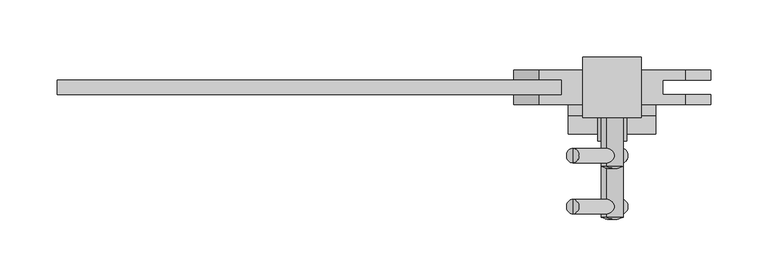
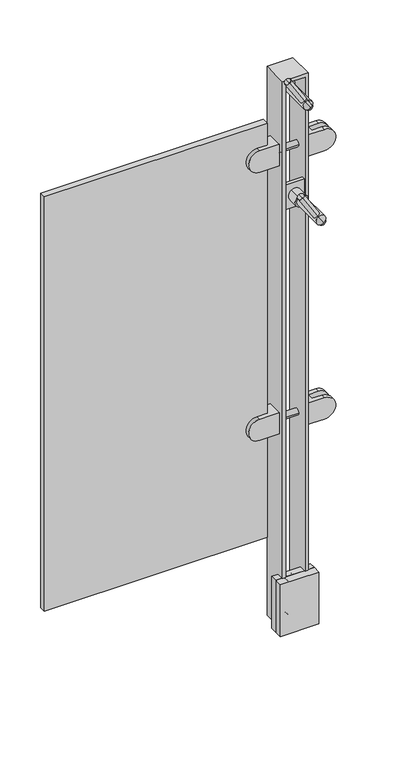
"""IFC4 building model written with IfcOpenShell, lengths in millimetres: proxy geometry, LIVERS_ICN - Glass Panel : LIVERS_ICN - Glass Panel."""

from ifc_helpers import new_model, si_unit, point, frame, origin, place, context, project, spatial, polyline, circle_curve, ellipse_curve, trimmed, outline, extrude, faceted_brep, source, transform, mapped, element, save
from ifc_brep_helpers import plane_surface, cylinder_surface, revolved_surface, advanced_brep


def building_element_proxy_5a8c780e(model_context):
    return source(origin(), model_context, "Body", "SolidModel", [
        advanced_brep(
        [(820.2987789, 60.3249609, 1048.8179387), (827.0287535, 60.3249609, 1038.0477279), (833.7587282, 60.3249609, 1027.277517), (820.2987789, 38.0999609, 1048.8179387), (833.7587282, 38.0999609, 1027.277517), (827.0287535, 38.0999609, 1038.0477279)],
        [
            (0, 1),
            (1, 2),
            (2, 0, circle_curve(frame((827.0287535, 60.3249609, 1038.0477279), z_axis=(0.0, 1.0, 0.0), x_axis=(0.5299192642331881, 0.0, -0.8480480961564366)), 12.7)),
            (0, 2, circle_curve(frame((827.0287535, 60.3249609, 1038.0477279), z_axis=(0.0, 1.0, 0.0), x_axis=(0.5299192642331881, 0.0, -0.8480480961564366)), 12.7)),
            (3, 0),
            (2, 4),
            (4, 3, circle_curve(frame((827.0287535, 38.0999609, 1038.0477279), z_axis=(0.0, 1.0, 0.0), x_axis=(0.5299192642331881, 0.0, -0.8480480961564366)), 12.7)),
            (3, 4, circle_curve(frame((827.0287535, 38.0999609, 1038.0477279), z_axis=(0.0, 1.0, 0.0), x_axis=(0.5299192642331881, 0.0, -0.8480480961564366)), 12.7)),
            (5, 3),
            (4, 5),
        ],
        [
            plane_surface(frame((827.0287535, 60.3249609, 1038.0477279), z_axis=(0.0, 1.0000000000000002, 0.0), x_axis=(0.5299192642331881, 0.0, -0.8480480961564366))),
            cylinder_surface(frame((827.0287535, 69.3828283, 1038.0477279), z_axis=(0.0, -1.0, 0.0), x_axis=(0.5299192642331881, 0.0, -0.8480480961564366)), 12.7),
            plane_surface(frame((827.0287535, 38.0999609, 1038.0477279), z_axis=(0.0, -1.0000000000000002, 0.0), x_axis=(0.5299192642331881, 0.0, -0.8480480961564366))),
        ],
        [
            (0, [[1, 2, 3]]),
            (0, [[-2, -1, 4]]),
            (1, [[5, -3, 6, 7]]),
            (1, [[-6, -4, -5, 8]]),
            (2, [[9, -7, 10]]),
            (2, [[-10, -8, -9]]),
        ],
    ),
        advanced_brep(
        [(792.7610833, -25.4004131, 1092.8874638), (792.7610833, -19.0504161, 1092.8874638), (792.7610833, -12.7004191, 1092.8874638), (835.3645086, -25.4004131, 1024.7077313), (835.3645086, -12.7004191, 1024.7077313), (835.3645086, -19.0504161, 1024.7077313)],
        [
            (0, 1),
            (1, 2),
            (2, 0, circle_curve(frame((792.7610833, -19.0504161, 1092.8874638), z_axis=(-0.5299192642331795, 0.0, 0.848048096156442), x_axis=(0.0, 1.0, 0.0)), 6.349997)),
            (0, 2, circle_curve(frame((792.7610833, -19.0504161, 1092.8874638), z_axis=(-0.5299192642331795, 0.0, 0.848048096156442), x_axis=(0.0, 1.0, 0.0)), 6.349997)),
            (3, 0),
            (2, 4),
            (4, 3, circle_curve(frame((835.3645086, -19.0504161, 1024.7077313), z_axis=(-0.5299192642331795, 0.0, 0.848048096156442), x_axis=(0.0, 1.0, 0.0)), 6.349997)),
            (3, 4, circle_curve(frame((835.3645086, -19.0504161, 1024.7077313), z_axis=(-0.5299192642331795, 0.0, 0.848048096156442), x_axis=(0.0, 1.0, 0.0)), 6.349997)),
            (5, 3),
            (4, 5),
        ],
        [
            plane_surface(frame((792.7610833, -19.0504161, 1092.8874638), z_axis=(-0.5299192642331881, 0.0, 0.8480480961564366), x_axis=(0.0, 1.0, 0.0))),
            cylinder_surface(frame((785.4211679, -19.0504161, 1104.6337839), z_axis=(0.5299192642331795, 0.0, -0.848048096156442), x_axis=(0.0, 1.0, 0.0)), 6.349997),
            plane_surface(frame((835.3645086, -19.0504161, 1024.7077313), z_axis=(0.5299192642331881, 0.0, -0.8480480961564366), x_axis=(0.0, 1.0, 0.0))),
        ],
        [
            (0, [[1, 2, 3]]),
            (0, [[-2, -1, 4]]),
            (1, [[5, -3, 6, 7]]),
            (1, [[-6, -4, -5, 8]]),
            (2, [[9, -7, 10]]),
            (2, [[-10, -8, -9]]),
        ],
    ),
        advanced_brep(
        [(827.0287535, -30.1375464, 1038.0477279), (821.9812725, -28.5500464, 1046.125386), (832.0762345, -28.5500464, 1029.9700697), (821.9812725, 38.0999609, 1046.125386), (827.0287535, 38.0999609, 1038.0477279), (832.0762345, 38.0999609, 1029.9700697)],
        [
            (0, 1, circle_curve(frame((827.0287535, -0.7687964, 1038.0477279), z_axis=(-0.848048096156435, 0.0, -0.5299192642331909), x_axis=(0.0, 1.0, 0.0)), 29.36875)),
            (1, 2, circle_curve(frame((827.0287535, -28.5500464, 1038.0477279), z_axis=(0.0, -1.0, 0.0), x_axis=(0.5299192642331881, 0.0, -0.8480480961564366)), 9.525)),
            (2, 0, circle_curve(frame((827.0287535, -0.7687964, 1038.0477279), z_axis=(-0.8480480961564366, 0.0, -0.5299192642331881), x_axis=(0.0, 1.0, 0.0)), 29.36875)),
            (2, 1, circle_curve(frame((827.0287535, -28.5500464, 1038.0477279), z_axis=(0.0, -1.0, 0.0), x_axis=(0.5299192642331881, 0.0, -0.8480480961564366)), 9.525)),
            (3, 4),
            (4, 5),
            (5, 3, circle_curve(frame((827.0287535, 38.0999609, 1038.0477279), z_axis=(0.0, 1.0, 0.0), x_axis=(0.5299192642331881, 0.0, -0.8480480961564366)), 9.525)),
            (3, 5, circle_curve(frame((827.0287535, 38.0999609, 1038.0477279), z_axis=(0.0, 1.0, 0.0), x_axis=(0.5299192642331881, 0.0, -0.8480480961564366)), 9.525)),
            (1, 3),
            (5, 2),
        ],
        [
            revolved_surface(trimmed(ellipse_curve(frame((827.0287535, -0.7687964, 1038.0477279), z_axis=(-0.8480480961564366, 0.0, -0.5299192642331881), x_axis=(0.0, 1.0, 0.0)), 29.36875, 29.36875), [point((832.0762345, -28.5500464, 1029.9700697))], [point((827.0287535, -30.1375464, 1038.0477279))], True, "CARTESIAN"), (827.0287535, 30.3031204, 1038.0477279), (0.0, -1.0, 0.0)),
            plane_surface(frame((827.0287535, 38.0999609, 1038.0477279), z_axis=(0.0, 1.0000000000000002, 0.0), x_axis=(0.5299192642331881, 0.0, -0.8480480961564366))),
            cylinder_surface(frame((827.0287535, 30.3031204, 1038.0477279), z_axis=(0.0, -1.0, 0.0), x_axis=(0.5299192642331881, 0.0, -0.8480480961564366)), 9.525),
        ],
        [
            (0, [[1, 2, 3]]),
            (0, [[-3, 4, -1]]),
            (1, [[5, 6, 7]]),
            (1, [[-6, -5, 8]]),
            (2, [[9, -7, 10, -2]]),
            (2, [[-10, -8, -9, -4]]),
        ],
    ),
        extrude(outline(polyline([(846.0787535, 66.6749609), (846.0787535, 60.3249609), (807.9787535, 60.3249609), (807.9787535, 66.6749609), (846.0787535, 66.6749609)])), frame((0.0, 0.0, 1012.6477279), z_axis=(0.0, 0.0, 1.0), x_axis=(1.0, 0.0, 0.0)), (0.0, 0.0, 1.0), 50.8),
        advanced_brep(
        [(820.2987789, 15.875, 836.1008405), (827.0287535, 15.875, 825.3306297), (833.7587282, 15.875, 814.5604189), (820.2987789, -6.35, 836.1008405), (833.7587282, -6.35, 814.5604189), (827.0287535, -6.35, 825.3306297)],
        [
            (0, 1),
            (1, 2),
            (2, 0, circle_curve(frame((827.0287535, 15.875, 825.3306297), z_axis=(0.0, 1.0, 0.0), x_axis=(0.5299192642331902, 0.0, -0.8480480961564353)), 12.7)),
            (0, 2, circle_curve(frame((827.0287535, 15.875, 825.3306297), z_axis=(0.0, 1.0, 0.0), x_axis=(0.5299192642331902, 0.0, -0.8480480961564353)), 12.7)),
            (3, 0),
            (2, 4),
            (4, 3, circle_curve(frame((827.0287535, -6.35, 825.3306297), z_axis=(0.0, 1.0, 0.0), x_axis=(0.5299192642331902, 0.0, -0.8480480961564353)), 12.7)),
            (3, 4, circle_curve(frame((827.0287535, -6.35, 825.3306297), z_axis=(0.0, 1.0, 0.0), x_axis=(0.5299192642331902, 0.0, -0.8480480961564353)), 12.7)),
            (5, 3),
            (4, 5),
        ],
        [
            plane_surface(frame((827.0287535, 15.875, 825.3306297), z_axis=(0.0, 1.0000000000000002, 0.0), x_axis=(0.5299192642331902, 0.0, -0.8480480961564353))),
            cylinder_surface(frame((827.0287535, 24.9328674, 825.3306297), z_axis=(0.0, -1.0, 0.0), x_axis=(0.5299192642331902, 0.0, -0.8480480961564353)), 12.7),
            plane_surface(frame((827.0287535, -6.35, 825.3306297), z_axis=(0.0, -1.0000000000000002, 0.0), x_axis=(0.5299192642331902, 0.0, -0.8480480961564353))),
        ],
        [
            (0, [[1, 2, 3]]),
            (0, [[-2, -1, 4]]),
            (1, [[5, -3, 6, 7]]),
            (1, [[-6, -4, -5, 8]]),
            (2, [[9, -7, 10]]),
            (2, [[-10, -8, -9]]),
        ],
    ),
        advanced_brep(
        [(792.7610833, -69.850374, 880.1703657), (792.7610833, -63.500377, 880.1703657), (792.7610833, -57.15038, 880.1703657), (835.3645086, -69.850374, 811.9906331), (835.3645086, -57.15038, 811.9906331), (835.3645086, -63.500377, 811.9906331)],
        [
            (0, 1),
            (1, 2),
            (2, 0, circle_curve(frame((792.7610833, -63.500377, 880.1703657), z_axis=(-0.5299192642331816, 0.0, 0.8480480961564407), x_axis=(0.0, 1.0, 0.0)), 6.349997)),
            (0, 2, circle_curve(frame((792.7610833, -63.500377, 880.1703657), z_axis=(-0.5299192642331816, 0.0, 0.8480480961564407), x_axis=(0.0, 1.0, 0.0)), 6.349997)),
            (3, 0),
            (2, 4),
            (4, 3, circle_curve(frame((835.3645086, -63.500377, 811.9906331), z_axis=(-0.5299192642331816, 0.0, 0.8480480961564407), x_axis=(0.0, 1.0, 0.0)), 6.349997)),
            (3, 4, circle_curve(frame((835.3645086, -63.500377, 811.9906331), z_axis=(-0.5299192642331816, 0.0, 0.8480480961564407), x_axis=(0.0, 1.0, 0.0)), 6.349997)),
            (5, 3),
            (4, 5),
        ],
        [
            plane_surface(frame((792.7610833, -63.500377, 880.1703657), z_axis=(-0.5299192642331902, 0.0, 0.8480480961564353), x_axis=(0.0, 1.0, 0.0))),
            cylinder_surface(frame((785.4211679, -63.500377, 891.9166857), z_axis=(0.5299192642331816, 0.0, -0.8480480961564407), x_axis=(0.0, 1.0, 0.0)), 6.349997),
            plane_surface(frame((835.3645086, -63.500377, 811.9906331), z_axis=(0.5299192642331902, 0.0, -0.8480480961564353), x_axis=(0.0, 1.0, 0.0))),
        ],
        [
            (0, [[1, 2, 3]]),
            (0, [[-2, -1, 4]]),
            (1, [[5, -3, 6, 7]]),
            (1, [[-6, -4, -5, 8]]),
            (2, [[9, -7, 10]]),
            (2, [[-10, -8, -9]]),
        ],
    ),
        advanced_brep(
        [(827.0287535, -74.5875073, 825.3306297), (821.9812725, -73.0000073, 833.4082878), (832.0762345, -73.0000073, 817.2529716), (821.9812725, -6.35, 833.4082878), (827.0287535, -6.35, 825.3306297), (832.0762345, -6.35, 817.2529716)],
        [
            (0, 1, circle_curve(frame((827.0287535, -45.2187573, 825.3306297), z_axis=(-0.8480480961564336, 0.0, -0.529919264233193), x_axis=(0.0, 1.0, 0.0)), 29.36875)),
            (1, 2, circle_curve(frame((827.0287535, -73.0000073, 825.3306297), z_axis=(0.0, -1.0, 0.0), x_axis=(0.5299192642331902, 0.0, -0.8480480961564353)), 9.525)),
            (2, 0, circle_curve(frame((827.0287535, -45.2187573, 825.3306297), z_axis=(-0.8480480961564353, 0.0, -0.5299192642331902), x_axis=(0.0, 1.0, 0.0)), 29.36875)),
            (2, 1, circle_curve(frame((827.0287535, -73.0000073, 825.3306297), z_axis=(0.0, -1.0, 0.0), x_axis=(0.5299192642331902, 0.0, -0.8480480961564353)), 9.525)),
            (3, 4),
            (4, 5),
            (5, 3, circle_curve(frame((827.0287535, -6.35, 825.3306297), z_axis=(0.0, 1.0, 0.0), x_axis=(0.5299192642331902, 0.0, -0.8480480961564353)), 9.525)),
            (3, 5, circle_curve(frame((827.0287535, -6.35, 825.3306297), z_axis=(0.0, 1.0, 0.0), x_axis=(0.5299192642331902, 0.0, -0.8480480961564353)), 9.525)),
            (1, 3),
            (5, 2),
        ],
        [
            revolved_surface(trimmed(ellipse_curve(frame((827.0287535, -45.2187573, 825.3306297), z_axis=(-0.8480480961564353, 0.0, -0.5299192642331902), x_axis=(0.0, 1.0, 0.0)), 29.36875, 29.36875), [point((832.0762345, -73.0000073, 817.2529716))], [point((827.0287535, -74.5875073, 825.3306297))], True, "CARTESIAN"), (827.0287535, -14.1468405, 825.3306297), (0.0, -1.0, 0.0)),
            plane_surface(frame((827.0287535, -6.35, 825.3306297), z_axis=(0.0, 1.0000000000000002, 0.0), x_axis=(0.5299192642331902, 0.0, -0.8480480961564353))),
            cylinder_surface(frame((827.0287535, -14.1468405, 825.3306297), z_axis=(0.0, -1.0, 0.0), x_axis=(0.5299192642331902, 0.0, -0.8480480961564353)), 9.525),
        ],
        [
            (0, [[1, 2, 3]]),
            (0, [[-3, 4, -1]]),
            (1, [[5, 6, 7]]),
            (1, [[-6, -5, 8]]),
            (2, [[9, -7, 10, -2]]),
            (2, [[-10, -8, -9, -4]]),
        ],
    ),
        extrude(outline(polyline([(846.0787535, 22.225), (846.0787535, 15.875), (807.9787535, 15.875), (807.9787535, 22.225), (846.0787535, 22.225)])), frame((0.0, 0.0, 799.9306297), z_axis=(0.0, 0.0, 1.0), x_axis=(1.0, 0.0, 0.0)), (0.0, 0.0, 1.0), 50.8),
        advanced_brep(
        [(801.6287535, 55.5624457, 373.0665925), (801.6287535, 25.3999457, 373.0665925), (801.6287535, 25.3999457, 328.6165925), (801.6287535, 55.5624457, 328.6165925), (763.4276595, 55.5624457, 328.6165925), (763.4276595, 55.5624457, 373.0665925), (763.4276595, 25.3999457, 328.6165925), (763.4276595, 34.1311957, 328.6165925), (782.7568343, 34.1311957, 328.6165925), (782.7568343, 46.8311957, 328.6165925), (763.4276595, 46.8311957, 328.6165925), (763.4276595, 25.3999457, 373.0665925), (763.4276595, 46.8311957, 373.0665925), (782.7568343, 46.8311957, 373.0665925), (782.7568343, 34.1311957, 373.0665925), (763.4276595, 34.1311957, 373.0665925)],
        [
            (0, 1),
            (1, 2),
            (2, 3),
            (3, 0),
            (3, 4),
            (4, 5, circle_curve(frame((763.4276595, 55.5624457, 350.8415925), z_axis=(0.0, 1.0, 0.0), x_axis=(0.0, 0.0, -1.0)), 22.225)),
            (5, 0),
            (2, 6),
            (6, 7),
            (7, 8),
            (8, 9),
            (9, 10),
            (10, 4),
            (1, 11),
            (11, 6, circle_curve(frame((763.4276595, 25.3999457, 350.8415925), z_axis=(0.0, -1.0, 0.0), x_axis=(0.0, 0.0, -1.0)), 22.225)),
            (5, 12),
            (12, 13),
            (13, 14),
            (14, 15),
            (15, 11),
            (13, 9),
            (8, 14),
            (12, 10, circle_curve(frame((763.4276595, 46.8311957, 350.8415925), z_axis=(0.0, -1.0, 0.0), x_axis=(0.0, 0.0, -1.0)), 22.225)),
            (7, 15, circle_curve(frame((763.4276595, 34.1311957, 350.8415925), z_axis=(0.0, 1.0, 0.0), x_axis=(0.0, 0.0, -1.0)), 22.225)),
        ],
        [
            plane_surface(frame((801.6287535, 55.5624457, 328.6165925), z_axis=(1.0, 0.0, 0.0), x_axis=(0.0, 0.0, 1.0))),
            plane_surface(frame((741.1256728, 55.5624457, 373.0665925), z_axis=(0.0, 1.0, 0.0), x_axis=(1.0, 0.0, 0.0))),
            plane_surface(frame((741.1256728, 55.5624457, 328.6165925), z_axis=(0.0, 0.0, -1.0), x_axis=(1.0, 0.0, 0.0))),
            plane_surface(frame((741.1256728, 25.3999457, 328.6165925), z_axis=(0.0, -1.0, 0.0), x_axis=(1.0, 0.0, 0.0))),
            plane_surface(frame((741.1256728, 25.3999457, 373.0665925), z_axis=(0.0, 0.0, 1.0), x_axis=(1.0, 0.0, 0.0))),
            plane_surface(frame((782.7568343, 46.8311957, 328.6165925), z_axis=(-1.0, 0.0, 0.0), x_axis=(0.0, 0.0, 1.0))),
            plane_surface(frame((741.1256728, 46.8311957, 373.0665925), z_axis=(0.0, -1.0, 0.0), x_axis=(1.0, 0.0, 0.0))),
            plane_surface(frame((741.1256728, 34.1311957, 328.6165925), z_axis=(0.0, 1.0, 0.0), x_axis=(1.0, 0.0, 0.0))),
            cylinder_surface(frame((763.4276595, 55.5624457, 350.8415925), z_axis=(0.0, 1.0, 0.0), x_axis=(0.0, 0.0, -1.0)), 22.225),
        ],
        [
            (0, [[1, 2, 3, 4]]),
            (1, [[-4, 5, 6, 7]]),
            (2, [[-3, 8, 9, 10, 11, 12, 13, -5]]),
            (3, [[-2, 14, 15, -8]]),
            (4, [[-1, -7, 16, 17, 18, 19, 20, -14]]),
            (5, [[21, -11, 22, -18]]),
            (6, [[-21, -17, 23, -12]]),
            (7, [[-22, -10, 24, -19]]),
            (8, [[-6, -13, -23, -16]]),
            (8, [[-9, -15, -20, -24]]),
        ],
    ),
        advanced_brep(
        [(852.4287535, 55.5624457, 373.0665925), (852.4287535, 55.5624457, 328.6165925), (852.4287535, 25.3999457, 328.6165925), (852.4287535, 25.3999457, 373.0665925), (890.6298475, 55.5624457, 373.0665925), (890.6298475, 55.5624457, 328.6165925), (890.6298475, 46.8311957, 328.6165925), (871.3006728, 46.8311957, 328.6165925), (871.3006728, 34.1311957, 328.6165925), (890.6298475, 34.1311957, 328.6165925), (890.6298475, 25.3999457, 328.6165925), (890.6298475, 25.3999457, 373.0665925), (890.6298475, 34.1311957, 373.0665925), (871.3006728, 34.1311957, 373.0665925), (871.3006728, 46.8311957, 373.0665925), (890.6298475, 46.8311957, 373.0665925)],
        [
            (0, 1),
            (1, 2),
            (2, 3),
            (3, 0),
            (0, 4),
            (4, 5, circle_curve(frame((890.6298475, 55.5624457, 350.8415925), z_axis=(0.0, 1.0, 0.0), x_axis=(0.0, 0.0, -1.0)), 22.225)),
            (5, 1),
            (5, 6),
            (6, 7),
            (7, 8),
            (8, 9),
            (9, 10),
            (10, 2),
            (10, 11, circle_curve(frame((890.6298475, 25.3999457, 350.8415925), z_axis=(0.0, -1.0, 0.0), x_axis=(0.0, 0.0, -1.0)), 22.225)),
            (11, 3),
            (11, 12),
            (12, 13),
            (13, 14),
            (14, 15),
            (15, 4),
            (13, 8),
            (7, 14),
            (6, 15, circle_curve(frame((890.6298475, 46.8311957, 350.8415925), z_axis=(0.0, -1.0, 0.0), x_axis=(0.0, 0.0, -1.0)), 22.225)),
            (12, 9, circle_curve(frame((890.6298475, 34.1311957, 350.8415925), z_axis=(0.0, 1.0, 0.0), x_axis=(0.0, 0.0, -1.0)), 22.225)),
        ],
        [
            plane_surface(frame((852.4287535, 55.5624457, 328.6165925), z_axis=(-1.0, 0.0, 0.0), x_axis=(0.0, 0.0, 1.0))),
            plane_surface(frame((912.9318343, 55.5624457, 373.0665925), z_axis=(0.0, 1.0, 0.0), x_axis=(-1.0, 0.0, 0.0))),
            plane_surface(frame((912.9318343, 55.5624457, 328.6165925), z_axis=(0.0, 0.0, -1.0), x_axis=(-1.0, 0.0, 0.0))),
            plane_surface(frame((912.9318343, 25.3999457, 328.6165925), z_axis=(0.0, -1.0, 0.0), x_axis=(-1.0, 0.0, 0.0))),
            plane_surface(frame((912.9318343, 25.3999457, 373.0665925), z_axis=(0.0, 0.0, 1.0), x_axis=(-1.0, 0.0, 0.0))),
            plane_surface(frame((871.3006728, 46.8311957, 328.6165925), z_axis=(1.0, 0.0, 0.0), x_axis=(0.0, 0.0, 1.0))),
            plane_surface(frame((912.9318343, 46.8311957, 373.0665925), z_axis=(0.0, -1.0, 0.0), x_axis=(-1.0, 0.0, 0.0))),
            plane_surface(frame((912.9318343, 34.1311957, 328.6165925), z_axis=(0.0, 1.0, 0.0), x_axis=(-1.0, 0.0, 0.0))),
            cylinder_surface(frame((890.6298475, 55.5624457, 350.8415925), z_axis=(0.0, 1.0, 0.0), x_axis=(0.0, 0.0, -1.0)), 22.225),
        ],
        [
            (0, [[1, 2, 3, 4]]),
            (1, [[5, 6, 7, -1]]),
            (2, [[-7, 8, 9, 10, 11, 12, 13, -2]]),
            (3, [[-13, 14, 15, -3]]),
            (4, [[-15, 16, 17, 18, 19, 20, -5, -4]]),
            (5, [[-18, 21, -10, 22]]),
            (6, [[-9, 23, -19, -22]]),
            (7, [[-17, 24, -11, -21]]),
            (8, [[-20, -23, -8, -6]]),
            (8, [[-24, -16, -14, -12]]),
        ],
    ),
        advanced_brep(
        [(801.6287535, 55.5624457, 931.8665925), (801.6287535, 25.3999457, 931.8665925), (801.6287535, 25.3999457, 887.4165925), (801.6287535, 55.5624457, 887.4165925), (763.4276595, 55.5624457, 887.4165925), (763.4276595, 55.5624457, 931.8665925), (763.4276595, 25.3999457, 887.4165925), (763.4276595, 34.1311957, 887.4165925), (782.7568343, 34.1311957, 887.4165925), (782.7568343, 46.8311957, 887.4165925), (763.4276595, 46.8311957, 887.4165925), (763.4276595, 25.3999457, 931.8665925), (763.4276595, 46.8311957, 931.8665925), (782.7568343, 46.8311957, 931.8665925), (782.7568343, 34.1311957, 931.8665925), (763.4276595, 34.1311957, 931.8665925)],
        [
            (0, 1),
            (1, 2),
            (2, 3),
            (3, 0),
            (3, 4),
            (4, 5, circle_curve(frame((763.4276595, 55.5624457, 909.6415925), z_axis=(0.0, 1.0, 0.0), x_axis=(0.0, 0.0, -1.0)), 22.225)),
            (5, 0),
            (2, 6),
            (6, 7),
            (7, 8),
            (8, 9),
            (9, 10),
            (10, 4),
            (1, 11),
            (11, 6, circle_curve(frame((763.4276595, 25.3999457, 909.6415925), z_axis=(0.0, -1.0, 0.0), x_axis=(0.0, 0.0, -1.0)), 22.225)),
            (5, 12),
            (12, 13),
            (13, 14),
            (14, 15),
            (15, 11),
            (13, 9),
            (8, 14),
            (12, 10, circle_curve(frame((763.4276595, 46.8311957, 909.6415925), z_axis=(0.0, -1.0, 0.0), x_axis=(0.0, 0.0, -1.0)), 22.225)),
            (7, 15, circle_curve(frame((763.4276595, 34.1311957, 909.6415925), z_axis=(0.0, 1.0, 0.0), x_axis=(0.0, 0.0, -1.0)), 22.225)),
        ],
        [
            plane_surface(frame((801.6287535, 55.5624457, 887.4165925), z_axis=(1.0, 0.0, 0.0), x_axis=(0.0, 0.0, 1.0))),
            plane_surface(frame((741.1256728, 55.5624457, 931.8665925), z_axis=(0.0, 1.0, 0.0), x_axis=(1.0, 0.0, 0.0))),
            plane_surface(frame((741.1256728, 55.5624457, 887.4165925), z_axis=(0.0, 0.0, -1.0), x_axis=(1.0, 0.0, 0.0))),
            plane_surface(frame((741.1256728, 25.3999457, 887.4165925), z_axis=(0.0, -1.0, 0.0), x_axis=(1.0, 0.0, 0.0))),
            plane_surface(frame((741.1256728, 25.3999457, 931.8665925), z_axis=(0.0, 0.0, 1.0), x_axis=(1.0, 0.0, 0.0))),
            plane_surface(frame((782.7568343, 46.8311957, 887.4165925), z_axis=(-1.0, 0.0, 0.0), x_axis=(0.0, 0.0, 1.0))),
            plane_surface(frame((741.1256728, 46.8311957, 931.8665925), z_axis=(0.0, -1.0, 0.0), x_axis=(1.0, 0.0, 0.0))),
            plane_surface(frame((741.1256728, 34.1311957, 887.4165925), z_axis=(0.0, 1.0, 0.0), x_axis=(1.0, 0.0, 0.0))),
            cylinder_surface(frame((763.4276595, 55.5624457, 909.6415925), z_axis=(0.0, 1.0, 0.0), x_axis=(0.0, 0.0, -1.0)), 22.225),
        ],
        [
            (0, [[1, 2, 3, 4]]),
            (1, [[-4, 5, 6, 7]]),
            (2, [[-3, 8, 9, 10, 11, 12, 13, -5]]),
            (3, [[-2, 14, 15, -8]]),
            (4, [[-1, -7, 16, 17, 18, 19, 20, -14]]),
            (5, [[21, -11, 22, -18]]),
            (6, [[-21, -17, 23, -12]]),
            (7, [[-22, -10, 24, -19]]),
            (8, [[-6, -13, -23, -16]]),
            (8, [[-9, -15, -20, -24]]),
        ],
    ),
        advanced_brep(
        [(852.4287535, 55.5624457, 931.8665925), (852.4287535, 55.5624457, 887.4165925), (852.4287535, 25.3999457, 887.4165925), (852.4287535, 25.3999457, 931.8665925), (890.6298475, 55.5624457, 931.8665925), (890.6298475, 55.5624457, 887.4165925), (890.6298475, 46.8311957, 887.4165925), (871.3006728, 46.8311957, 887.4165925), (871.3006728, 34.1311957, 887.4165925), (890.6298475, 34.1311957, 887.4165925), (890.6298475, 25.3999457, 887.4165925), (890.6298475, 25.3999457, 931.8665925), (890.6298475, 34.1311957, 931.8665925), (871.3006728, 34.1311957, 931.8665925), (871.3006728, 46.8311957, 931.8665925), (890.6298475, 46.8311957, 931.8665925)],
        [
            (0, 1),
            (1, 2),
            (2, 3),
            (3, 0),
            (0, 4),
            (4, 5, circle_curve(frame((890.6298475, 55.5624457, 909.6415925), z_axis=(0.0, 1.0, 0.0), x_axis=(0.0, 0.0, -1.0)), 22.225)),
            (5, 1),
            (5, 6),
            (6, 7),
            (7, 8),
            (8, 9),
            (9, 10),
            (10, 2),
            (10, 11, circle_curve(frame((890.6298475, 25.3999457, 909.6415925), z_axis=(0.0, -1.0, 0.0), x_axis=(0.0, 0.0, -1.0)), 22.225)),
            (11, 3),
            (11, 12),
            (12, 13),
            (13, 14),
            (14, 15),
            (15, 4),
            (13, 8),
            (7, 14),
            (6, 15, circle_curve(frame((890.6298475, 46.8311957, 909.6415925), z_axis=(0.0, -1.0, 0.0), x_axis=(0.0, 0.0, -1.0)), 22.225)),
            (12, 9, circle_curve(frame((890.6298475, 34.1311957, 909.6415925), z_axis=(0.0, 1.0, 0.0), x_axis=(0.0, 0.0, -1.0)), 22.225)),
        ],
        [
            plane_surface(frame((852.4287535, 55.5624457, 887.4165925), z_axis=(-1.0, 0.0, 0.0), x_axis=(0.0, 0.0, 1.0))),
            plane_surface(frame((912.9318343, 55.5624457, 931.8665925), z_axis=(0.0, 1.0, 0.0), x_axis=(-1.0, 0.0, 0.0))),
            plane_surface(frame((912.9318343, 55.5624457, 887.4165925), z_axis=(0.0, 0.0, -1.0), x_axis=(-1.0, 0.0, 0.0))),
            plane_surface(frame((912.9318343, 25.3999457, 887.4165925), z_axis=(0.0, -1.0, 0.0), x_axis=(-1.0, 0.0, 0.0))),
            plane_surface(frame((912.9318343, 25.3999457, 931.8665925), z_axis=(0.0, 0.0, 1.0), x_axis=(-1.0, 0.0, 0.0))),
            plane_surface(frame((871.3006728, 46.8311957, 887.4165925), z_axis=(1.0, 0.0, 0.0), x_axis=(0.0, 0.0, 1.0))),
            plane_surface(frame((912.9318343, 46.8311957, 931.8665925), z_axis=(0.0, -1.0, 0.0), x_axis=(-1.0, 0.0, 0.0))),
            plane_surface(frame((912.9318343, 34.1311957, 887.4165925), z_axis=(0.0, 1.0, 0.0), x_axis=(-1.0, 0.0, 0.0))),
            cylinder_surface(frame((890.6298475, 55.5624457, 909.6415925), z_axis=(0.0, 1.0, 0.0), x_axis=(0.0, 0.0, -1.0)), 22.225),
        ],
        [
            (0, [[1, 2, 3, 4]]),
            (1, [[5, 6, 7, -1]]),
            (2, [[-7, 8, 9, 10, 11, 12, 13, -2]]),
            (3, [[-13, 14, 15, -3]]),
            (4, [[-15, 16, 17, 18, 19, 20, -5, -4]]),
            (5, [[-18, 21, -10, 22]]),
            (6, [[-9, 23, -19, -22]]),
            (7, [[-17, 24, -11, -21]]),
            (8, [[-20, -23, -8, -6]]),
            (8, [[-24, -16, -14, -12]]),
        ],
    ),
        advanced_brep(
        [(827.0287535, 28.575, -65.824441), (827.0287535, 29.7562407, -65.824441), (827.0287535, 29.7562407, -43.5994298), (827.0287535, 28.575, -43.5994298), (827.0287535, 28.575, -54.7119354), (827.0287535, 32.325, -60.324441), (827.0287535, 30.8816229, -54.7119354), (827.0287535, 32.325, -49.0994298), (827.0287535, 34.8740117, -60.324441), (827.0287535, 34.8740117, -49.0994298), (827.0287535, 33.8500285, -63.2724473), (827.0287535, 33.8500285, -46.1514234), (827.0287535, 31.8562692, -65.0307233), (827.0287535, 31.8562692, -44.3931475)],
        [
            (0, 1),
            (1, 2, circle_curve(frame((827.0287535, 29.7562407, -54.7119354), z_axis=(0.0, -1.0, 0.0), x_axis=(0.0, 0.0, 1.0)), 11.1125056)),
            (2, 3),
            (3, 0, circle_curve(frame((827.0287535, 28.575, -54.7119354), z_axis=(0.0, 1.0, 0.0), x_axis=(0.0, 0.0, 1.0)), 11.1125056)),
            (2, 1, circle_curve(frame((827.0287535, 29.7562407, -54.7119354), z_axis=(0.0, -1.0, 0.0), x_axis=(0.0, 0.0, 1.0)), 11.1125056)),
            (0, 3, circle_curve(frame((827.0287535, 28.575, -54.7119354), z_axis=(0.0, 1.0, 0.0), x_axis=(0.0, 0.0, 1.0)), 11.1125056)),
            (4, 0),
            (3, 4),
            (5, 6),
            (6, 7),
            (7, 5, circle_curve(frame((827.0287535, 32.325, -54.7119354), z_axis=(0.0, 1.0, 0.0), x_axis=(0.0, 0.0, 1.0)), 5.6125056)),
            (5, 7, circle_curve(frame((827.0287535, 32.325, -54.7119354), z_axis=(0.0, 1.0, 0.0), x_axis=(0.0, 0.0, 1.0)), 5.6125056)),
            (8, 5),
            (7, 9),
            (9, 8, circle_curve(frame((827.0287535, 34.8740117, -54.7119354), z_axis=(0.0, 1.0, 0.0), x_axis=(0.0, 0.0, 1.0)), 5.6125056)),
            (8, 9, circle_curve(frame((827.0287535, 34.8740117, -54.7119354), z_axis=(0.0, 1.0, 0.0), x_axis=(0.0, 0.0, 1.0)), 5.6125056)),
            (10, 8, circle_curve(frame((827.0287535, 31.75, -60.891165), z_axis=(1.0, 0.0, 0.0), x_axis=(0.0, -1.0, 0.0)), 3.175)),
            (9, 11, circle_curve(frame((827.0287535, 31.75, -48.5327057), z_axis=(1.0, 0.0, 0.0), x_axis=(0.0, -1.0, 0.0)), 3.175)),
            (11, 10, circle_curve(frame((827.0287535, 33.8500285, -54.7119354), z_axis=(0.0, 1.0, 0.0), x_axis=(0.0, 0.0, 1.0)), 8.560512)),
            (10, 11, circle_curve(frame((827.0287535, 33.8500285, -54.7119354), z_axis=(0.0, 1.0, 0.0), x_axis=(0.0, 0.0, 1.0)), 8.560512)),
            (12, 10),
            (11, 13),
            (13, 12, circle_curve(frame((827.0287535, 31.8562692, -54.7119354), z_axis=(0.0, 1.0, 0.0), x_axis=(0.0, 0.0, 1.0)), 10.3187879)),
            (12, 13, circle_curve(frame((827.0287535, 31.8562692, -54.7119354), z_axis=(0.0, 1.0, 0.0), x_axis=(0.0, 0.0, 1.0)), 10.3187879)),
            (1, 12, circle_curve(frame((827.0287535, 29.7562407, -62.649441), z_axis=(1.0, 0.0, 0.0), x_axis=(0.0, -1.0, 0.0)), 3.175)),
            (13, 2, circle_curve(frame((827.0287535, 29.7562407, -46.7744298), z_axis=(1.0, 0.0, 0.0), x_axis=(0.0, -1.0, 0.0)), 3.175)),
        ],
        [
            cylinder_surface(frame((827.0287535, 28.575, -54.7119354), z_axis=(0.0, -1.0, 0.0), x_axis=(0.0, 0.0, 1.0)), 11.1125056),
            plane_surface(frame((827.0287535, 28.575, -54.7119354), z_axis=(0.0, -1.0, 0.0), x_axis=(0.0, 0.0, 1.0))),
            revolved_surface(polyline([(827.0287535, 30.8816229, -54.7119354), (827.0287535, 32.325, -49.0994298)]), (827.0287535, 28.575, -54.7119354), (0.0, -1.0, 0.0)),
            revolved_surface(polyline([(827.0287535, 32.325, -49.0994298), (827.0287535, 34.8740117, -49.0994298)]), (827.0287535, 28.575, -54.7119354), (0.0, -1.0, 0.0)),
            revolved_surface(trimmed(ellipse_curve(frame((827.0287535, 31.75, -48.5327057), z_axis=(1.0, 0.0, 0.0), x_axis=(0.0, -1.0, 0.0)), 3.175, 3.175), [point((827.0287535, 34.8740117, -49.0994298))], [point((827.0287535, 33.8500285, -46.1514234))], True, "CARTESIAN"), (827.0287535, 28.575, -54.7119354), (0.0, -1.0, 0.0)),
            revolved_surface(polyline([(827.0287535, 33.8500285, -46.1514234), (827.0287535, 31.8562692, -44.3931475)]), (827.0287535, 28.575, -54.7119354), (0.0, -1.0, 0.0)),
            revolved_surface(trimmed(ellipse_curve(frame((827.0287535, 29.7562407, -46.7744298), z_axis=(1.0, 0.0, 0.0), x_axis=(0.0, -1.0, 0.0)), 3.175, 3.175), [point((827.0287535, 31.8562692, -44.3931475))], [point((827.0287535, 29.7562407, -43.5994298))], True, "CARTESIAN"), (827.0287535, 28.575, -54.7119354), (0.0, -1.0, 0.0)),
        ],
        [
            (0, [[1, 2, 3, 4]]),
            (0, [[-3, 5, -1, 6]]),
            (1, [[7, -4, 8]]),
            (1, [[-8, -6, -7]]),
            (2, [[9, 10, 11]]),
            (2, [[-10, -9, 12]]),
            (3, [[13, -11, 14, 15]]),
            (3, [[-14, -12, -13, 16]]),
            (4, [[17, -15, 18, 19]]),
            (4, [[-18, -16, -17, 20]]),
            (5, [[21, -19, 22, 23]]),
            (5, [[-22, -20, -21, 24]]),
            (6, [[25, -23, 26, -2]]),
            (6, [[-26, -24, -25, -5]]),
        ],
    ),
        advanced_brep(
        [(827.0287535, 28.575, 4.025559), (827.0287535, 29.7562407, 4.025559), (827.0287535, 29.7562407, 26.2505702), (827.0287535, 28.575, 26.2505702), (827.0287535, 28.575, 15.1380646), (827.0287535, 33.8500285, 6.5775527), (827.0287535, 34.8740117, 9.525559), (827.0287535, 34.8740117, 20.7505702), (827.0287535, 33.8500285, 23.6985766), (827.0287535, 31.8562692, 4.8192767), (827.0287535, 31.8562692, 25.4568525), (827.0287535, 32.325, 9.525559), (827.0287535, 30.8816229, 15.1380646), (827.0287535, 32.325, 20.7505702)],
        [
            (0, 1),
            (1, 2, circle_curve(frame((827.0287535, 29.7562407, 15.1380646), z_axis=(0.0, -1.0, 0.0), x_axis=(0.0, 0.0, 1.0)), 11.1125056)),
            (2, 3),
            (3, 0, circle_curve(frame((827.0287535, 28.575, 15.1380646), z_axis=(0.0, 1.0, 0.0), x_axis=(0.0, 0.0, 1.0)), 11.1125056)),
            (2, 1, circle_curve(frame((827.0287535, 29.7562407, 15.1380646), z_axis=(0.0, -1.0, 0.0), x_axis=(0.0, 0.0, 1.0)), 11.1125056)),
            (0, 3, circle_curve(frame((827.0287535, 28.575, 15.1380646), z_axis=(0.0, 1.0, 0.0), x_axis=(0.0, 0.0, 1.0)), 11.1125056)),
            (4, 0),
            (3, 4),
            (5, 6, circle_curve(frame((827.0287535, 31.75, 8.958835), z_axis=(1.0, 0.0, 0.0), x_axis=(0.0, -1.0, 0.0)), 3.175)),
            (6, 7, circle_curve(frame((827.0287535, 34.8740117, 15.1380646), z_axis=(0.0, -1.0, 0.0), x_axis=(0.0, 0.0, 1.0)), 5.6125056)),
            (7, 8, circle_curve(frame((827.0287535, 31.75, 21.3172943), z_axis=(1.0, 0.0, 0.0), x_axis=(0.0, -1.0, 0.0)), 3.175)),
            (8, 5, circle_curve(frame((827.0287535, 33.8500285, 15.1380646), z_axis=(0.0, 1.0, 0.0), x_axis=(0.0, 0.0, 1.0)), 8.560512)),
            (7, 6, circle_curve(frame((827.0287535, 34.8740117, 15.1380646), z_axis=(0.0, -1.0, 0.0), x_axis=(0.0, 0.0, 1.0)), 5.6125056)),
            (5, 8, circle_curve(frame((827.0287535, 33.8500285, 15.1380646), z_axis=(0.0, 1.0, 0.0), x_axis=(0.0, 0.0, 1.0)), 8.560512)),
            (9, 5),
            (8, 10),
            (10, 9, circle_curve(frame((827.0287535, 31.8562692, 15.1380646), z_axis=(0.0, 1.0, 0.0), x_axis=(0.0, 0.0, 1.0)), 10.3187879)),
            (9, 10, circle_curve(frame((827.0287535, 31.8562692, 15.1380646), z_axis=(0.0, 1.0, 0.0), x_axis=(0.0, 0.0, 1.0)), 10.3187879)),
            (1, 9, circle_curve(frame((827.0287535, 29.7562407, 7.200559), z_axis=(1.0, 0.0, 0.0), x_axis=(0.0, -1.0, 0.0)), 3.175)),
            (10, 2, circle_curve(frame((827.0287535, 29.7562407, 23.0755702), z_axis=(1.0, 0.0, 0.0), x_axis=(0.0, -1.0, 0.0)), 3.175)),
            (11, 12),
            (12, 13),
            (13, 11, circle_curve(frame((827.0287535, 32.325, 15.1380646), z_axis=(0.0, 1.0, 0.0), x_axis=(0.0, 0.0, 1.0)), 5.6125056)),
            (11, 13, circle_curve(frame((827.0287535, 32.325, 15.1380646), z_axis=(0.0, 1.0, 0.0), x_axis=(0.0, 0.0, 1.0)), 5.6125056)),
            (6, 11),
            (13, 7),
        ],
        [
            cylinder_surface(frame((827.0287535, 28.575, 15.1380646), z_axis=(0.0, -1.0, 0.0), x_axis=(0.0, 0.0, 1.0)), 11.1125056),
            plane_surface(frame((827.0287535, 28.575, 15.1380646), z_axis=(0.0, -1.0, 0.0), x_axis=(0.0, 0.0, 1.0))),
            revolved_surface(trimmed(ellipse_curve(frame((827.0287535, 31.75, 21.3172943), z_axis=(1.0, 0.0, 0.0), x_axis=(0.0, -1.0, 0.0)), 3.175, 3.175), [point((827.0287535, 34.8740117, 20.7505702))], [point((827.0287535, 33.8500285, 23.6985766))], True, "CARTESIAN"), (827.0287535, 28.575, 15.1380646), (0.0, -1.0, 0.0)),
            revolved_surface(polyline([(827.0287535, 33.8500285, 23.6985766), (827.0287535, 31.8562692, 25.4568525)]), (827.0287535, 28.575, 15.1380646), (0.0, -1.0, 0.0)),
            revolved_surface(trimmed(ellipse_curve(frame((827.0287535, 29.7562407, 23.0755702), z_axis=(1.0, 0.0, 0.0), x_axis=(0.0, -1.0, 0.0)), 3.175, 3.175), [point((827.0287535, 31.8562692, 25.4568525))], [point((827.0287535, 29.7562407, 26.2505702))], True, "CARTESIAN"), (827.0287535, 28.575, 15.1380646), (0.0, -1.0, 0.0)),
            revolved_surface(polyline([(827.0287535, 30.8816229, 15.1380646), (827.0287535, 32.325, 20.7505702)]), (827.0287535, 28.575, 15.1380646), (0.0, -1.0, 0.0)),
            revolved_surface(polyline([(827.0287535, 32.325, 20.7505702), (827.0287535, 34.8740117, 20.7505702)]), (827.0287535, 28.575, 15.1380646), (0.0, -1.0, 0.0)),
        ],
        [
            (0, [[1, 2, 3, 4]]),
            (0, [[-3, 5, -1, 6]]),
            (1, [[7, -4, 8]]),
            (1, [[-8, -6, -7]]),
            (2, [[9, 10, 11, 12]]),
            (2, [[-11, 13, -9, 14]]),
            (3, [[15, -12, 16, 17]]),
            (3, [[-16, -14, -15, 18]]),
            (4, [[19, -17, 20, -2]]),
            (4, [[-20, -18, -19, -5]]),
            (5, [[21, 22, 23]]),
            (5, [[-22, -21, 24]]),
            (6, [[25, -23, 26, -10]]),
            (6, [[-26, -24, -25, -13]]),
        ],
    ),
        faceted_brep([(852.4287535, 14.2874305, 1069.7977279), (852.4287535, 14.2874305, -73.7619354), (852.4287535, 15.875, -73.7619354), (852.4287535, 15.875, 34.1880646), (852.4287535, 28.575, 34.1880646), (852.4287535, 28.575, -73.7619354), (852.4287535, 66.6749609, -73.7619354), (852.4287535, 66.6749609, 1069.7977279), (846.0787535, 66.6749609, -73.7619354), (846.0787535, 28.575, -73.7619354), (846.0787535, 28.575, 34.1880646), (846.0787535, 15.875, 34.1880646), (846.0787535, 15.875, -73.7619354), (846.0787535, 14.2874305, -73.7619354), (846.0787535, 14.2874305, 1063.4477279), (846.0787535, 66.6749609, 1063.4477279), (788.9287535, 28.575, -73.7619354), (801.6287535, 28.575, -73.7619354), (801.6287535, 66.6749609, -73.7619354), (807.9787535, 66.6749609, -73.7619354), (807.9787535, 28.575, -73.7619354), (865.1287535, 28.575, -73.7619354), (865.1287535, 15.875, -73.7619354), (807.9787535, 15.875, -73.7619354), (807.9787535, 14.2874305, -73.7619354), (801.6287535, 14.2874305, -73.7619354), (801.6287535, 15.875, -73.7619354), (788.9287535, 15.875, -73.7619354), (801.6287535, 14.2874305, 1069.7977279), (807.9787535, 14.2874305, 1063.4477279), (801.6287535, 66.6749609, 1069.7977279), (807.9787535, 66.6749609, 1063.4477279), (807.9787535, 15.875, 34.1880646), (807.9787535, 28.575, 34.1880646), (801.6287535, 28.575, 34.1880646), (801.6287535, 15.875, 34.1880646), (865.1287535, 28.575, 34.1880646), (788.9287535, 28.575, 34.1880646), (788.9287535, 15.875, 34.1880646), (865.1287535, 15.875, 34.1880646)], [[[0, 1, 2, 3, 4, 5, 6, 7]], [[8, 9, 10, 11, 12, 13, 14, 15]], [[16, 17, 18, 19, 20, 9, 8, 6, 5, 21, 22, 2, 1, 13, 12, 23, 24, 25, 26, 27]], [[1, 0, 28, 25, 24, 29, 14, 13]], [[7, 30, 28, 0]], [[8, 15, 31, 19, 18, 30, 7, 6]], [[24, 23, 32, 33, 20, 19, 31, 29]], [[14, 29, 31, 15]], [[30, 18, 17, 34, 35, 26, 25, 28]], [[20, 33, 10, 9]], [[21, 5, 4, 36]], [[37, 34, 17, 16]], [[12, 11, 32, 23]], [[27, 26, 35, 38]], [[39, 3, 2, 22]], [[36, 39, 22, 21]], [[33, 32, 11, 10]], [[36, 4, 3, 39]], [[38, 35, 34, 37]], [[16, 27, 38, 37]]]),
        extrude(outline(polyline([(865.1287535, 15.875), (865.1287535, 0.0), (788.9287535, 0.0), (788.9287535, 15.875), (865.1287535, 15.875)])), frame((0.0, 0.0, -73.7619354), z_axis=(0.0, 0.0, 1.0), x_axis=(1.0, 0.0, 0.0)), (0.0, 0.0, 1.0), 107.95),
        advanced_brep(
        [(807.9787535, 41.2749421, 350.8415981), (807.9787535, 47.5989918, 350.8415981), (807.9787535, 34.9508924, 350.8415981), (846.0927398, 47.5989918, 350.8415981), (846.0927398, 41.2749421, 350.8415981), (846.0927398, 34.9508924, 350.8415981)],
        [
            (0, 1),
            (1, 2, circle_curve(frame((807.9787535, 41.2749421, 350.8415981), z_axis=(-1.0, 0.0, 0.0), x_axis=(0.0, -1.0, 0.0)), 6.3240497)),
            (2, 0),
            (2, 1, circle_curve(frame((807.9787535, 41.2749421, 350.8415981), z_axis=(-1.0, 0.0, 0.0), x_axis=(0.0, -1.0, 0.0)), 6.3240497)),
            (3, 4),
            (4, 5),
            (5, 3, circle_curve(frame((846.0927398, 41.2749421, 350.8415981), z_axis=(1.0, 0.0, 0.0), x_axis=(0.0, -1.0, 0.0)), 6.3240497)),
            (3, 5, circle_curve(frame((846.0927398, 41.2749421, 350.8415981), z_axis=(1.0, 0.0, 0.0), x_axis=(0.0, -1.0, 0.0)), 6.3240497)),
            (1, 3),
            (5, 2),
        ],
        [
            plane_surface(frame((807.9787535, 41.2749421, 350.8415981), z_axis=(-1.0, 0.0, 0.0), x_axis=(0.0, -1.0, 0.0))),
            plane_surface(frame((846.0927398, 41.2749421, 350.8415981), z_axis=(1.0, 0.0, 0.0), x_axis=(0.0, -1.0, 0.0))),
            cylinder_surface(frame((807.9787535, 41.2749421, 350.8415981), z_axis=(-1.0, 0.0, 0.0), x_axis=(0.0, -1.0, 0.0)), 6.3240497),
        ],
        [
            (0, [[1, 2, 3]]),
            (0, [[-3, 4, -1]]),
            (1, [[5, 6, 7]]),
            (1, [[-6, -5, 8]]),
            (2, [[9, -7, 10, -2]]),
            (2, [[-10, -8, -9, -4]]),
        ],
    ),
        advanced_brep(
        [(807.9787535, 41.2749421, 909.6415981), (807.9787535, 47.5989918, 909.6415981), (807.9787535, 34.9508924, 909.6415981), (846.0927398, 47.5989918, 909.6415981), (846.0927398, 41.2749421, 909.6415981), (846.0927398, 34.9508924, 909.6415981)],
        [
            (0, 1),
            (1, 2, circle_curve(frame((807.9787535, 41.2749421, 909.6415981), z_axis=(-1.0, 0.0, 0.0), x_axis=(0.0, -1.0, 0.0)), 6.3240497)),
            (2, 0),
            (2, 1, circle_curve(frame((807.9787535, 41.2749421, 909.6415981), z_axis=(-1.0, 0.0, 0.0), x_axis=(0.0, -1.0, 0.0)), 6.3240497)),
            (3, 4),
            (4, 5),
            (5, 3, circle_curve(frame((846.0927398, 41.2749421, 909.6415981), z_axis=(1.0, 0.0, 0.0), x_axis=(0.0, -1.0, 0.0)), 6.3240497)),
            (3, 5, circle_curve(frame((846.0927398, 41.2749421, 909.6415981), z_axis=(1.0, 0.0, 0.0), x_axis=(0.0, -1.0, 0.0)), 6.3240497)),
            (1, 3),
            (5, 2),
        ],
        [
            plane_surface(frame((807.9787535, 41.2749421, 909.6415981), z_axis=(-1.0, 0.0, 0.0), x_axis=(0.0, -1.0, 0.0))),
            plane_surface(frame((846.0927398, 41.2749421, 909.6415981), z_axis=(1.0, 0.0, 0.0), x_axis=(0.0, -1.0, 0.0))),
            cylinder_surface(frame((807.9787535, 41.2749421, 909.6415981), z_axis=(-1.0, 0.0, 0.0), x_axis=(0.0, -1.0, 0.0)), 6.3240497),
        ],
        [
            (0, [[1, 2, 3]]),
            (0, [[-3, 4, -1]]),
            (1, [[5, 6, 7]]),
            (1, [[-6, -5, 8]]),
            (2, [[9, -7, 10, -2]]),
            (2, [[-10, -8, -9, -4]]),
        ],
    ),
        extrude(outline(polyline([(782.7568343, 34.1309994), (343.9704255, 34.1309994), (343.9704255, 46.8311957), (782.7568343, 46.8311957), (782.7568343, 34.1309994)])), frame((0.0, 0.0, 114.3), z_axis=(0.0, 0.0, 1.0), x_axis=(1.0, 0.0, 0.0)), (0.0, 0.0, 1.0), 863.6),
    ])


if __name__ == "__main__":
    model = new_model("IFC4")
    model_context = context("Model", 3, world=origin())
    ifc_project = project(units=[si_unit("LENGTHUNIT", "METRE", prefix="MILLI")], contexts=[model_context])
    site = spatial("IfcSite", under=ifc_project)
    building = spatial("IfcBuilding", under=site)
    placement = place(None, origin())
    building_element_proxy_shape = building_element_proxy_5a8c780e(model_context)
    element("IfcBuildingElementProxy", 1, Name="LIVERS_ICN - Glass Panel : LIVERS_ICN - Glass Panel", ObjectType="LIVERS_ICN - Glass Panel : LIVERS_ICN - Glass Panel", at=placement, inside=building, context=model_context, shape_type="MappedRepresentation", body=[
        mapped(building_element_proxy_shape, transform((0.0, 0.0, 0.0), x_axis=(1.0, 0.0, 0.0), y_axis=(0.0, 1.0, 0.0), z_axis=(0.0, 0.0, 1.0))),
    ])
    save(model, "model.ifc")
